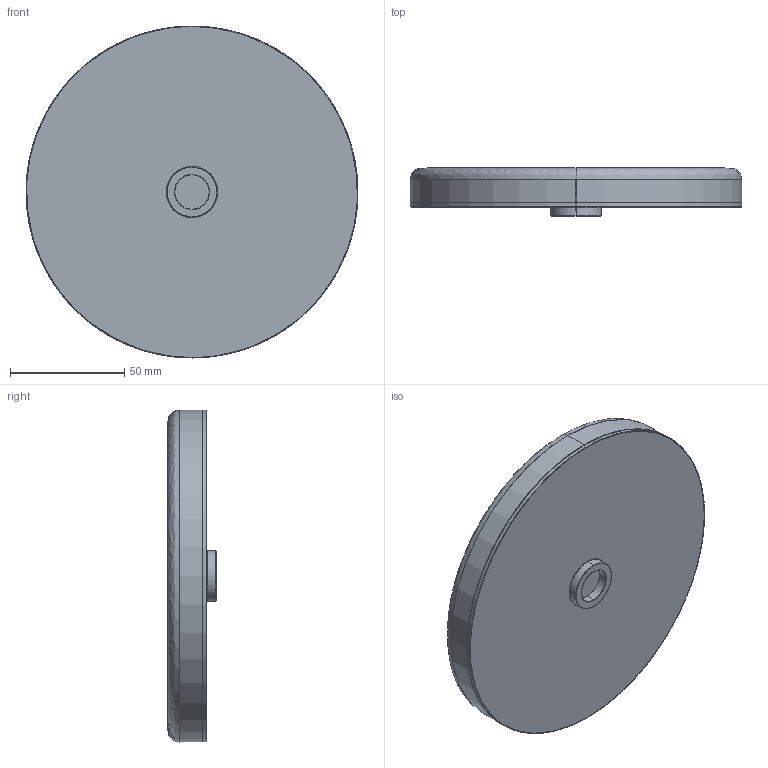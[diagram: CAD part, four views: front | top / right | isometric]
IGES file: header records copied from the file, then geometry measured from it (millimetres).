
Start section: SolidWorks IGES file using analytic representation for surfaces
Global section: file name: C:\Users\danielet\Desktop\ISMAIL\CHAMALEON\DISCOS CHAMALEON\CHAMALEON-K0003440-3D\CHAMALEON-K0003440-3D.IGS; native system: SolidWorks 2018; preprocessor: SolidWorks 2018; author: danielet; date: 230321.114521; units: millimetre
Bounding box: 145 x 21 x 145 mm (x, y, z)
Surface area: 73178.2 mm2 (no closed solid volume)
Topology: 0 solids, 0 shells, 26 faces, 464 edges, 464 vertices
Faces by surface type: bspline 18, revolution 8
